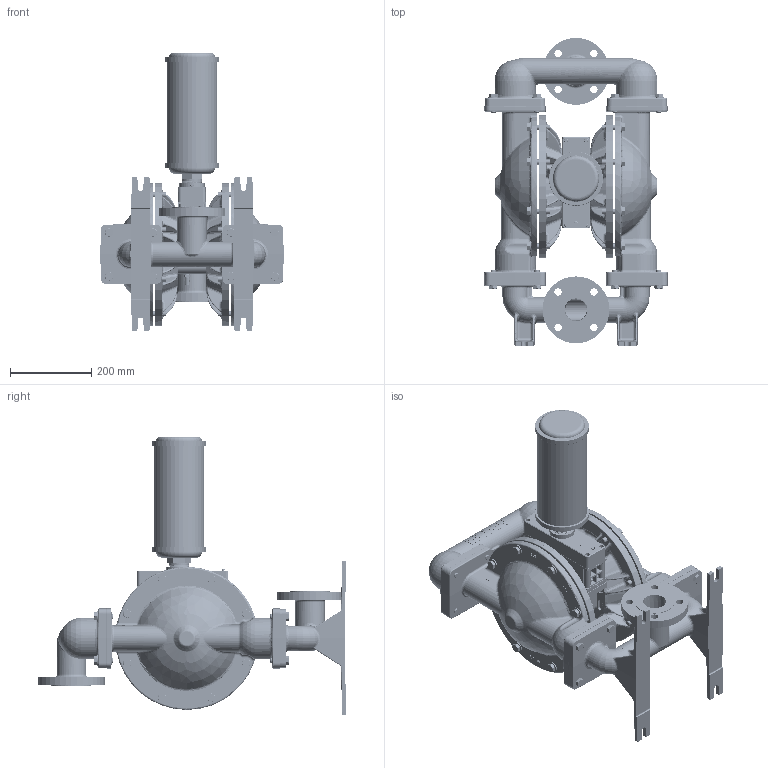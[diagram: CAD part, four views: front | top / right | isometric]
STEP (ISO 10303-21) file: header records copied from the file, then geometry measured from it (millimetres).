
FILE_DESCRIPTION((''),'2;1');
FILE_NAME('PS830_ADV_SS_DIN','2014-05-13T',('mike.hiatt'),(''),'PRO/ENGINEER BY PARAMETRIC TECHNOLOGY CORPORATION, 2011180','PRO/ENGINEER BY PARAMETRIC TECHNOLOGY CORPORATION, 2011180','');
FILE_SCHEMA(('CONFIG_CONTROL_DESIGN'));
Length unit declared in the file: inch
Products named in the file (1): PS830_ADV_SS_DIN
Bounding box: 452.41 x 760.35 x 687.2 mm (x, y, z)
Volume: 16114319.6 mm3; surface area: 2821140.6 mm2
Topology: 7 solids, 14 shells, 15411 faces, 40588 edges, 25862 vertices
Faces by surface type: plane 9911, cylinder 1864, bspline 1669, cone 794, torus 789, sphere 306, extrusion 78
Entity records: 982985 total; most frequent: CARTESIAN_POINT 613864, ORIENTED_EDGE 81116, DIRECTION 69806, EDGE_CURVE 40558, VECTOR 28360, LINE 28282, VERTEX_POINT 25862, AXIS2_PLACEMENT_3D 20723
